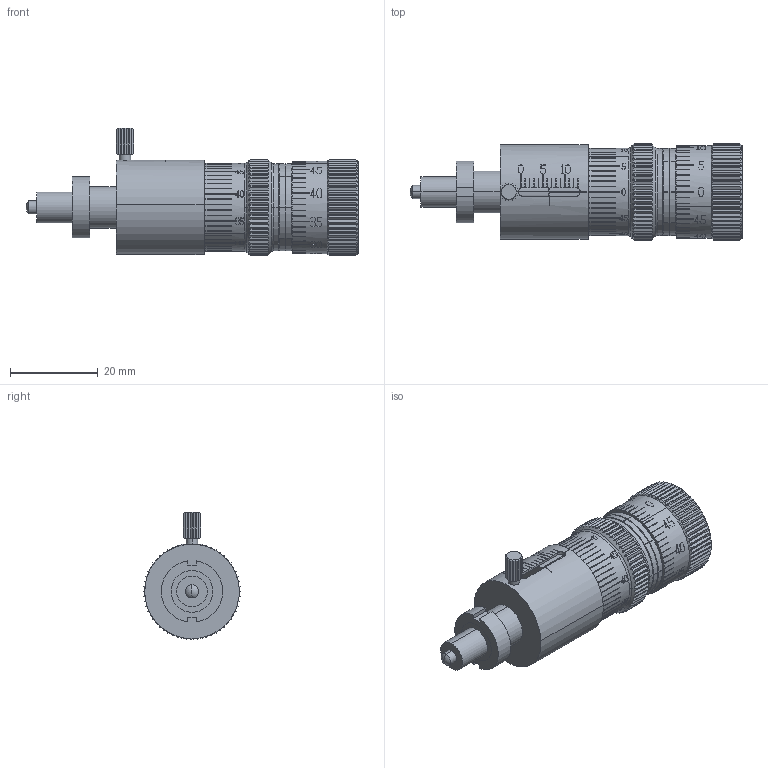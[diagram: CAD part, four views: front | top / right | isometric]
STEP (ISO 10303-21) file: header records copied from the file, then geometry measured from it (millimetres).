
FILE_DESCRIPTION( (''), '2;1');
FILE_NAME ('FPP03-13.stp','2020-07-21T17:34:33',(''),(''),'spGate 15.6.6','','');
FILE_SCHEMA (('AUTOMOTIVE_DESIGN'));
Length unit declared in the file: millimetre
Products named in the file (4): Assembly; FPP03-13-prt0; FPP03-13-prt1; FPP03-13-prt2
Assembly tree (3 placements, depth 2):
  Assembly
    FPP03-13-prt0
    FPP03-13-prt1
    FPP03-13-prt2
Bounding box: 75.5 x 22 x 29 mm (x, y, z)
Volume: 17338.2 mm3; surface area: 10227.3 mm2
Topology: 3 solids, 3 shells, 2179 faces, 6183 edges, 4115 vertices
Faces by surface type: plane 1643, cylinder 369, bspline 165, sphere 2
Entity records: 119768 total; most frequent: CARTESIAN_POINT 18800, ORIENTED_EDGE 12362, DIRECTION 9780, COLOUR_RGB 8363, PRESENTATION_STYLE_ASSIGNMENT 8363, STYLED_ITEM 8363, EDGE_CURVE 6181, DRAUGHTING_PRE_DEFINED_CURVE_FONT 6181
